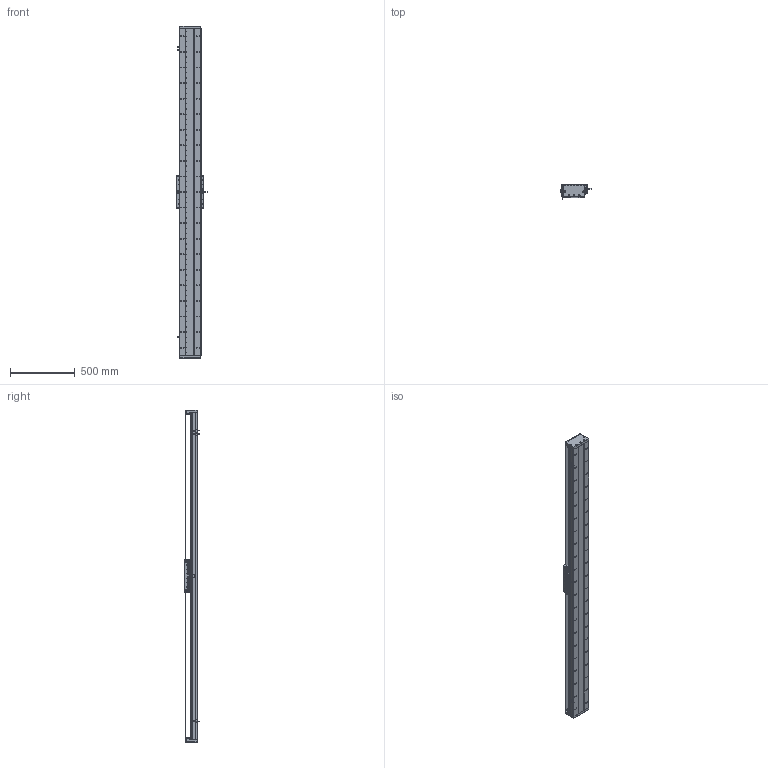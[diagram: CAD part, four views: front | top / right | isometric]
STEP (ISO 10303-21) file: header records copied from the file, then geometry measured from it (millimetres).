
FILE_DESCRIPTION (( 'STEP AP203' ), '1' );
FILE_NAME ('DA-C165-C3-T2220-C010-0.2 直线电机.STEP', '2023-06-13T08:52:12', ( '微软用户' ), ( '微软中国' ), 'SwSTEP 2.0', 'SolidWorks 2019', '' );
FILE_SCHEMA (( 'CONFIG_CONTROL_DESIGN' ));
Length unit declared in the file: millimetre
Products named in the file (18): 珨极趙賑雄怢啣C3-wf; 复件 DA165-GD-DG-H-00 端盖^复件 CU165钢带组件_DA-C165-C3-T-C010-0.2-N 直线电机; 复件 DA165-GYP-00 光电感应片^DA-C165-C3-T-C010-0.2-N 直线电机; 复件 六角薄螺母 M3^DA-C165-C3-T-C010-0.2-N 直线电机_GB_FASTENER_NUT_STNAB M3-C; 复件 DA165-GD-1860-002-00 钢带盖板^复件 CU165钢带组件_DA-C165-C3-T-C010-0.2-N 直线电机; 复件 DA165-GDLK-00 钢带拉块^复件 CU165钢带组件_DA-C165-C3-T-C010-0.2-N 直线电机; 葩璃 DA95-GT-T-00^IU-CU165-L 菁釱絳寢_T; DA-C165-C3-T2220-C010-0.2 眻盄萇儂; 复件 CU165 底座^IU-CU165-L 底座导轨_L2520; 复件 XD-U-02L 磁栅尺^DA-C165-C3-T-C010-0.2-N 直线电机_T; 葩璃 CKM03-W075-C1C2-TP-3.0^DA-C165-C3-T-C010-0.2-N 眻盄萇儂; 葩璃 CKM01-W075-TRL^DA-C165-C3-T-C010-0.2-N 眻盄萇儂; 复件 DA95-HXJ-00 缓冲橡胶^DA-C165-C3-T-C010-0.2-N 直线电机; IU-CU165-L 菁釱絳寢; 葩璃 PM-T45^DA-C165-C3-T-C010-0.2-N 眻盄萇儂; 复件 DA165-GDYK-00 钢带压块^复件 CU165钢带组件_DA-C165-C3-T-C010-0.2-N 直线电机; 复件 CU165钢带组件^DA-C165-C3-T-C010-0.2-N 直线电机; 复件 DMA-010-0.2 读数头^DA-C165-C3-T-C010-0.2-N 直线电机
Assembly tree (35 placements, depth 3):
  DA-C165-C3-T2220-C010-0.2 眻盄萇儂
    IU-CU165-L 菁釱絳寢
      复件 CU165 底座^IU-CU165-L 底座导轨_L2520
      葩璃 DA95-GT-T-00^IU-CU165-L 菁釱絳寢_T  x4
    复件 XD-U-02L 磁栅尺^DA-C165-C3-T-C010-0.2-N 直线电机_T
    葩璃 PM-T45^DA-C165-C3-T-C010-0.2-N 眻盄萇儂  x3
    葩璃 CKM01-W075-TRL^DA-C165-C3-T-C010-0.2-N 眻盄萇儂
    复件 CU165钢带组件^DA-C165-C3-T-C010-0.2-N 直线电机
      复件 DA165-GD-DG-H-00 端盖^复件 CU165钢带组件_DA-C165-C3-T-C010-0.2-N 直线电机  x2
      复件 DA165-GDYK-00 钢带压块^复件 CU165钢带组件_DA-C165-C3-T-C010-0.2-N 直线电机  x2
      复件 DA165-GD-1860-002-00 钢带盖板^复件 CU165钢带组件_DA-C165-C3-T-C010-0.2-N 直线电机
      复件 DA165-GDLK-00 钢带拉块^复件 CU165钢带组件_DA-C165-C3-T-C010-0.2-N 直线电机  x2
    复件 DA95-HXJ-00 缓冲橡胶^DA-C165-C3-T-C010-0.2-N 直线电机  x4
    复件 DA165-GYP-00 光电感应片^DA-C165-C3-T-C010-0.2-N 直线电机
    复件 DMA-010-0.2 读数头^DA-C165-C3-T-C010-0.2-N 直线电机
    葩璃 CKM03-W075-C1C2-TP-3.0^DA-C165-C3-T-C010-0.2-N 眻盄萇儂
    复件 六角薄螺母 M3^DA-C165-C3-T-C010-0.2-N 直线电机_GB_FASTENER_NUT_STNAB M3-C  x8
    珨极趙賑雄怢啣C3-wf
Bounding box: 233 x 111.45 x 2560 mm (x, y, z)
Volume: 14830191.3 mm3; surface area: 4382146.9 mm2
Topology: 72 solids, 122 shells, 4318 faces, 12317 edges, 7778 vertices
Faces by surface type: cylinder 2480, plane 1212, cone 576, torus 46, sphere 4
Entity records: 141487 total; most frequent: CARTESIAN_POINT 37951, ORIENTED_EDGE 21386, DIRECTION 21013, EDGE_CURVE 10693, AXIS2_PLACEMENT_3D 8074, VERTEX_POINT 6966, EDGE_LOOP 4993, LINE 4865
